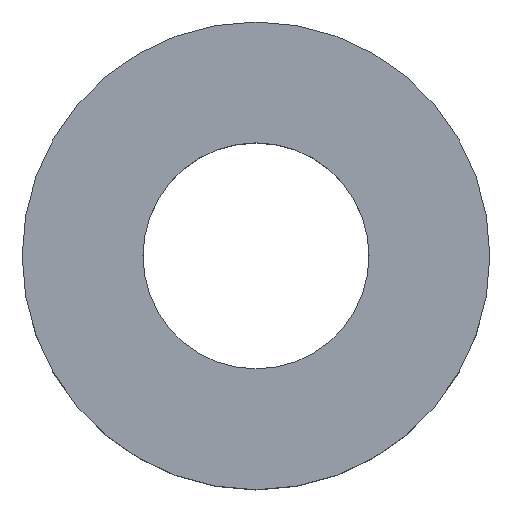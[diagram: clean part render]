
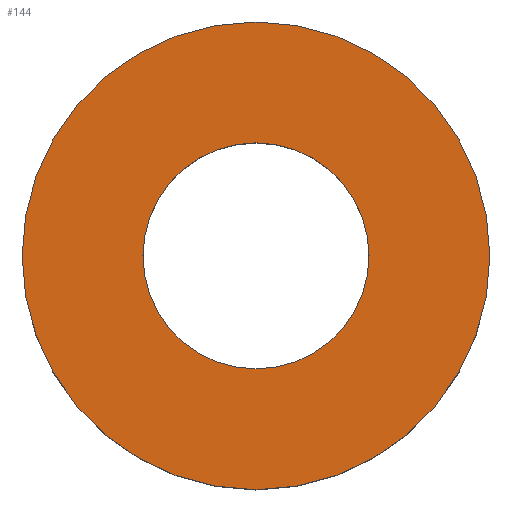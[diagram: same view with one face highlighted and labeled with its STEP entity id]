
A CAD part, top view. The second image highlights one B-rep face of the part: STEP entity #144.
In plain terms, the highlighted planar face has unit normal (0, 0, 1).
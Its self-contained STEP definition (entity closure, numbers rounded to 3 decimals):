
#24 = VERTEX_POINT('',#25);
#25 = CARTESIAN_POINT('',(3.,0.,2.));
#32 = CYLINDRICAL_SURFACE('',#33,3.);
#33 = AXIS2_PLACEMENT_3D('',#34,#35,#36);
#34 = CARTESIAN_POINT('',(0.,0.,0.));
#35 = DIRECTION('',(-0.,-0.,-1.));
#36 = DIRECTION('',(1.,0.,0.));
#51 = EDGE_CURVE('',#24,#24,#52,.T.);
#52 = SURFACE_CURVE('',#53,(#58,#65),.PCURVE_S1.);
#53 = CIRCLE('',#54,3.);
#54 = AXIS2_PLACEMENT_3D('',#55,#56,#57);
#55 = CARTESIAN_POINT('',(0.,0.,2.));
#56 = DIRECTION('',(0.,0.,1.));
#57 = DIRECTION('',(1.,0.,0.));
#58 = PCURVE('',#32,#59);
#59 = DEFINITIONAL_REPRESENTATION('',(#60),#64);
#60 = LINE('',#61,#62);
#61 = CARTESIAN_POINT('',(-0.,-2.));
#62 = VECTOR('',#63,1.);
#63 = DIRECTION('',(-1.,0.));
#64 = ( GEOMETRIC_REPRESENTATION_CONTEXT(2) 
PARAMETRIC_REPRESENTATION_CONTEXT() REPRESENTATION_CONTEXT('2D SPACE',''
  ) );
#65 = PCURVE('',#66,#71);
#66 = PLANE('',#67);
#67 = AXIS2_PLACEMENT_3D('',#68,#69,#70);
#68 = CARTESIAN_POINT('',(0.,0.,2.));
#69 = DIRECTION('',(0.,0.,1.));
#70 = DIRECTION('',(1.,0.,-0.));
#71 = DEFINITIONAL_REPRESENTATION('',(#72),#76);
#72 = CIRCLE('',#73,3.);
#73 = AXIS2_PLACEMENT_2D('',#74,#75);
#74 = CARTESIAN_POINT('',(0.,0.));
#75 = DIRECTION('',(1.,0.));
#76 = ( GEOMETRIC_REPRESENTATION_CONTEXT(2) 
PARAMETRIC_REPRESENTATION_CONTEXT() REPRESENTATION_CONTEXT('2D SPACE',''
  ) );
#133 = CYLINDRICAL_SURFACE('',#134,1.45);
#134 = AXIS2_PLACEMENT_3D('',#135,#136,#137);
#135 = CARTESIAN_POINT('',(0.,0.,-1.));
#136 = DIRECTION('',(-0.,-0.,-1.));
#137 = DIRECTION('',(1.,0.,0.));
#144 = ADVANCED_FACE('',(#145,#148),#66,.T.);
#145 = FACE_BOUND('',#146,.T.);
#146 = EDGE_LOOP('',(#147));
#147 = ORIENTED_EDGE('',*,*,#51,.T.);
#148 = FACE_BOUND('',#149,.T.);
#149 = EDGE_LOOP('',(#150));
#150 = ORIENTED_EDGE('',*,*,#151,.T.);
#151 = EDGE_CURVE('',#152,#152,#154,.T.);
#152 = VERTEX_POINT('',#153);
#153 = CARTESIAN_POINT('',(1.45,0.,2.));
#154 = SURFACE_CURVE('',#155,(#160,#171),.PCURVE_S1.);
#155 = CIRCLE('',#156,1.45);
#156 = AXIS2_PLACEMENT_3D('',#157,#158,#159);
#157 = CARTESIAN_POINT('',(0.,0.,2.));
#158 = DIRECTION('',(0.,0.,-1.));
#159 = DIRECTION('',(1.,0.,0.));
#160 = PCURVE('',#66,#161);
#161 = DEFINITIONAL_REPRESENTATION('',(#162),#170);
#162 = ( BOUNDED_CURVE() B_SPLINE_CURVE(2,(#163,#164,#165,#166,#167,#168
,#169),.UNSPECIFIED.,.T.,.F.) B_SPLINE_CURVE_WITH_KNOTS((1,2,2,2,2,1),(
    -2.094,0.,2.094,4.189,6.283,
8.378),.UNSPECIFIED.) CURVE() GEOMETRIC_REPRESENTATION_ITEM() 
RATIONAL_B_SPLINE_CURVE((1.,0.5,1.,0.5,1.,0.5,1.)) REPRESENTATION_ITEM(
  '') );
#163 = CARTESIAN_POINT('',(1.45,0.));
#164 = CARTESIAN_POINT('',(1.45,-2.511));
#165 = CARTESIAN_POINT('',(-0.725,-1.256));
#166 = CARTESIAN_POINT('',(-2.9,0.));
#167 = CARTESIAN_POINT('',(-0.725,1.256));
#168 = CARTESIAN_POINT('',(1.45,2.511));
#169 = CARTESIAN_POINT('',(1.45,0.));
#170 = ( GEOMETRIC_REPRESENTATION_CONTEXT(2) 
PARAMETRIC_REPRESENTATION_CONTEXT() REPRESENTATION_CONTEXT('2D SPACE',''
  ) );
#171 = PCURVE('',#133,#172);
#172 = DEFINITIONAL_REPRESENTATION('',(#173),#177);
#173 = LINE('',#174,#175);
#174 = CARTESIAN_POINT('',(-6.283,-3.));
#175 = VECTOR('',#176,1.);
#176 = DIRECTION('',(1.,-0.));
#177 = ( GEOMETRIC_REPRESENTATION_CONTEXT(2) 
PARAMETRIC_REPRESENTATION_CONTEXT() REPRESENTATION_CONTEXT('2D SPACE',''
  ) );
